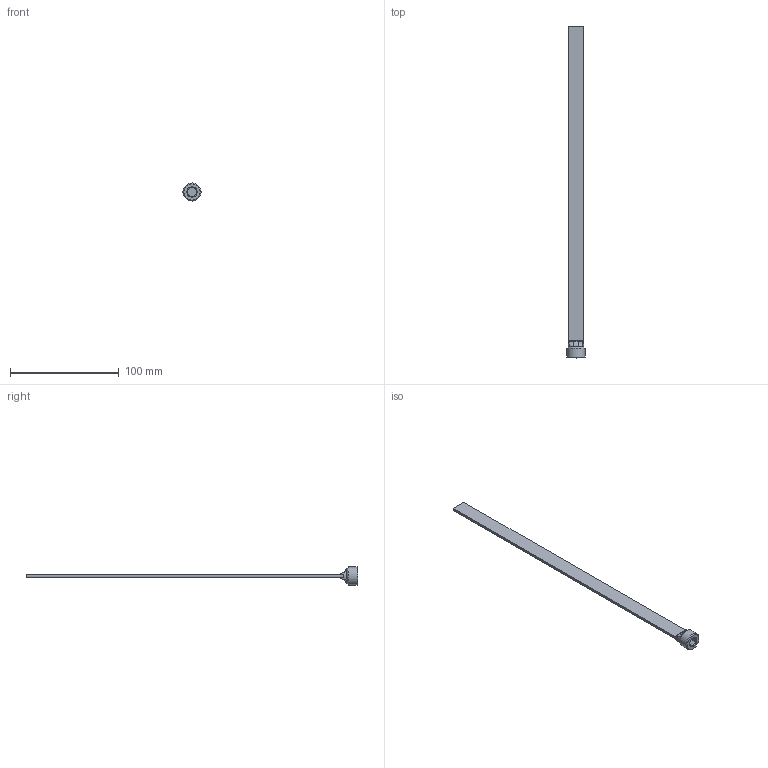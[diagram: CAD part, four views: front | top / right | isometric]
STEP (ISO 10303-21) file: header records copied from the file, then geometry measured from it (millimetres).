
FILE_DESCRIPTION(/* description */ (''),/* implementation_level */ '2;1');
FILE_NAME(/* name */ 'C:/Users/drich/Desktop/SB38X12BSP v1.step',/* time_stamp */ '2020-01-04T16:06:03-06:00',/* author */ (''),/* organization */ (''),/* preprocessor_version */ 'ST-DEVELOPER v18',/* originating_system */ 'Autodesk Translation Framework v8.12.0.6',/* authorisation */ '');
FILE_SCHEMA (('AUTOMOTIVE_DESIGN { 1 0 10303 214 3 1 1 }'));
Length unit declared in the file: inch
Products named in the file (1): SB38X12BSP
Bounding box: 16.54 x 304.8 x 16.54 mm (x, y, z)
Volume: 11941 mm3; surface area: 10793.4 mm2
Topology: 1 solids, 1 shells, 51 faces, 129 edges, 82 vertices
Faces by surface type: plane 24, cylinder 8, torus 8, bspline 8, cone 3
Full cylindrical faces by diameter (mm): 7.874 x1, 16.537 x1
Entity records: 2069 total; most frequent: CARTESIAN_POINT 895, ORIENTED_EDGE 258, DIRECTION 203, EDGE_CURVE 129, VERTEX_POINT 82, AXIS2_PLACEMENT_3D 78, EDGE_LOOP 53, FACE_OUTER_BOUND 51
